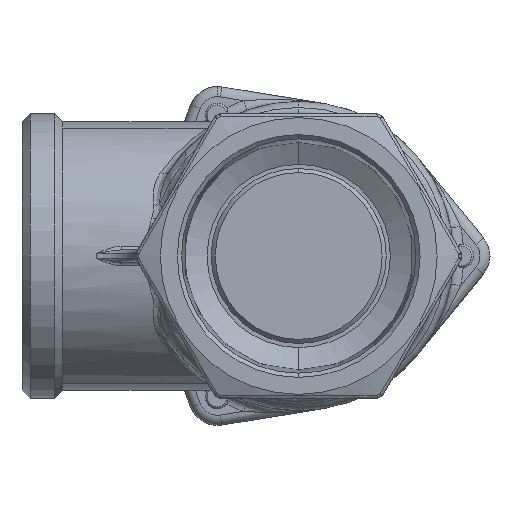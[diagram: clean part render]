
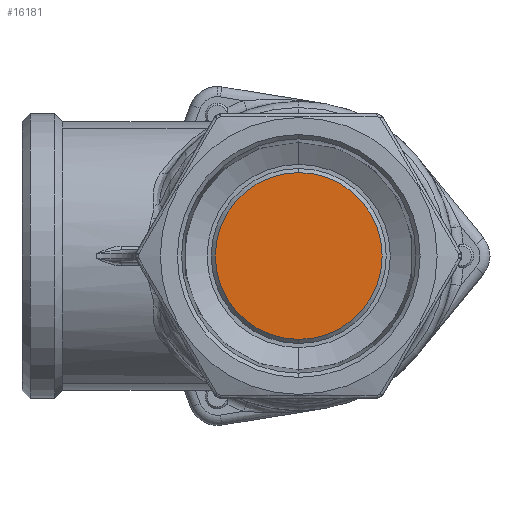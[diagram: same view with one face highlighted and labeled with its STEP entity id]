
A CAD part, front view. The second image highlights one B-rep face of the part: STEP entity #16181.
In plain terms, the highlighted planar face has unit normal (0, -1, 0).
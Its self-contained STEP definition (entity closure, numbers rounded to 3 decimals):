
#1462 = CARTESIAN_POINT ( 'NONE',  ( 0., 48., 0. ) ) ;
#1484 = FACE_OUTER_BOUND ( 'NONE', #5783, .T. ) ;
#1485 = PLANE ( 'NONE',  #32385 ) ;
#1491 = DIRECTION ( 'NONE',  ( 0., 1., 0. ) ) ;
#1492 = DIRECTION ( 'NONE',  ( 0., 0., 1. ) ) ;
#4198 = ORIENTED_EDGE ( 'NONE', *, *, #31913, .T. ) ;
#4199 = ORIENTED_EDGE ( 'NONE', *, *, #32114, .T. ) ;
#4443 = CIRCLE ( 'NONE', #4446, 20.5 ) ;
#4446 = AXIS2_PLACEMENT_3D ( 'NONE', #33694, #33695, #33696 ) ;
#4655 = CIRCLE ( 'NONE', #4660, 20.5 ) ;
#4660 = AXIS2_PLACEMENT_3D ( 'NONE', #13767, #13768, #13769 ) ;
#5783 = EDGE_LOOP ( 'NONE', ( #4198, #4199 ) ) ;
#6696 = VERTEX_POINT ( 'NONE', #15177 ) ;
#6740 = VERTEX_POINT ( 'NONE', #15201 ) ;
#13767 = CARTESIAN_POINT ( 'NONE',  ( 0., 48., 0. ) ) ;
#13768 = DIRECTION ( 'NONE',  ( 0., -1., 0. ) ) ;
#13769 = DIRECTION ( 'NONE',  ( 0., 0., -1. ) ) ;
#15177 = CARTESIAN_POINT ( 'NONE',  ( 0., 48., -20.5 ) ) ;
#15201 = CARTESIAN_POINT ( 'NONE',  ( 0., 48., 20.5 ) ) ;
#16181 = ADVANCED_FACE ( 'NONE', ( #1484 ), #1485, .F. ) ;
#31913 = EDGE_CURVE ( 'NONE', #6740, #6696, #4443, .T. ) ;
#32114 = EDGE_CURVE ( 'NONE', #6696, #6740, #4655, .T. ) ;
#32385 = AXIS2_PLACEMENT_3D ( 'NONE', #1462, #1491, #1492 ) ;
#33694 = CARTESIAN_POINT ( 'NONE',  ( 0., 48., 0. ) ) ;
#33695 = DIRECTION ( 'NONE',  ( 0., -1., 0. ) ) ;
#33696 = DIRECTION ( 'NONE',  ( 0., 0., -1. ) ) ;
